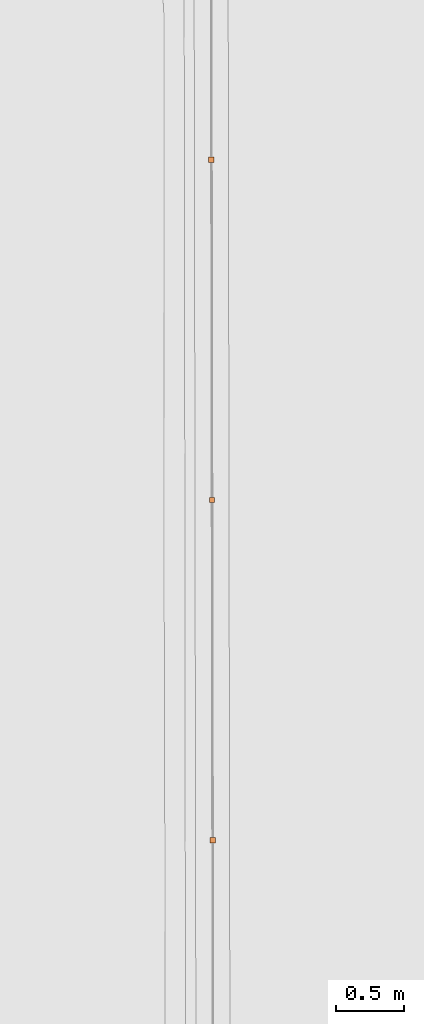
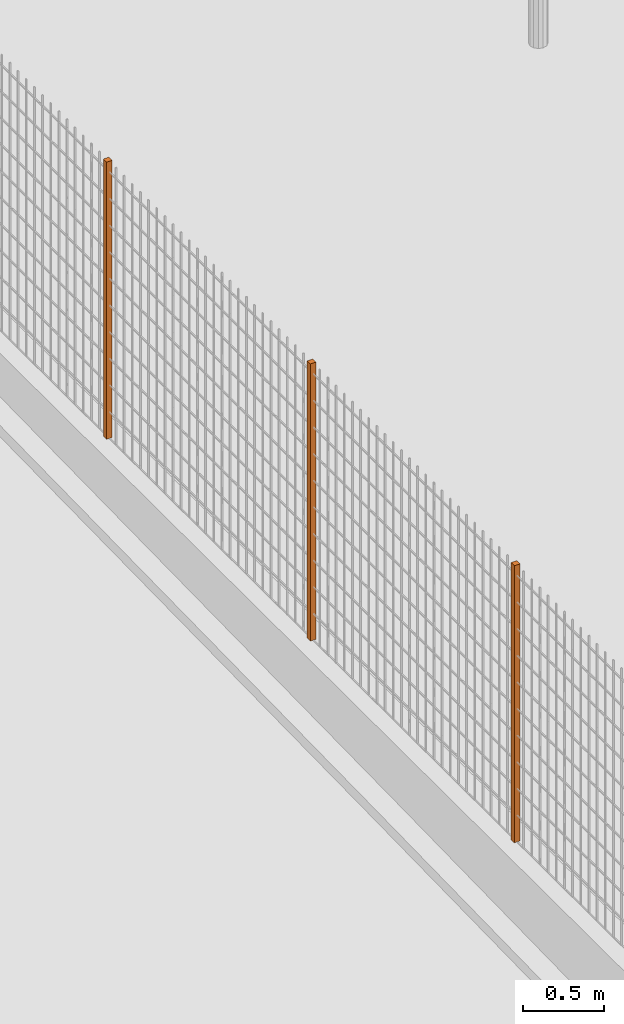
# One storey, part 35 of 1809: 3 proxies, 1 element without a shape of its own.
"""IFC2X3 building model written with IfcOpenShell, lengths in millimetres."""

from ifc_helpers import new_model, entity, si_unit, converted_unit, derived_unit, money_unit, direction, frame, origin_with_axes, place, context, subcontext, project, spatial, faceted_brep, source, transform, mapped, material, type_object, element, aggregate, save


model = new_model("IFC2X3")

# Units and contexts
model_context = context("Model", 3, precision=0.01, world=origin_with_axes(), true_north=direction((0.0, 1.0)))
body_context = subcontext(model_context, "Body", "Model", "MODEL_VIEW")
ifc_project = project(units=[si_unit("LENGTHUNIT", "METRE", prefix="MILLI"), si_unit("AREAUNIT", "SQUARE_METRE"), si_unit("VOLUMEUNIT", "CUBIC_METRE"), converted_unit("PLANEANGLEUNIT", "DEGREE", entity("IfcPlaneAngleMeasure", 0.0174532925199), si_unit("PLANEANGLEUNIT", "RADIAN"), dimensions=[0, 0, 0, 0, 0, 0, 0]), si_unit("SOLIDANGLEUNIT", "STERADIAN"), money_unit("EUR"), converted_unit("TIMEUNIT", "Year", entity("IfcTimeMeasure", 31556926.0), si_unit("TIMEUNIT", "SECOND"), dimensions=[0, 0, 1, 0, 0, 0, 0]), si_unit("MASSUNIT", "GRAM", prefix="KILO"), si_unit("THERMODYNAMICTEMPERATUREUNIT", "DEGREE_CELSIUS"), si_unit("LUMINOUSINTENSITYUNIT", "LUMEN"), si_unit("ENERGYUNIT", "JOULE", prefix="MEGA"), derived_unit("THERMALCONDUCTANCEUNIT", [(si_unit("POWERUNIT", "WATT"), 1), (si_unit("LENGTHUNIT", "METRE"), -1), (si_unit("THERMODYNAMICTEMPERATUREUNIT", "KELVIN"), -1)]), derived_unit("SPECIFICHEATCAPACITYUNIT", [(si_unit("ENERGYUNIT", "JOULE"), 1), (si_unit("MASSUNIT", "GRAM", prefix="KILO"), -1), (si_unit("THERMODYNAMICTEMPERATUREUNIT", "KELVIN"), -1)]), derived_unit("MASSDENSITYUNIT", [(si_unit("MASSUNIT", "GRAM", prefix="KILO"), 1), (si_unit("VOLUMEUNIT", "CUBIC_METRE"), -1)])], contexts=[model_context])

# Site, building, storey
site_placement = place(None, origin_with_axes())
site = spatial("IfcSite", under=ifc_project, at=site_placement, Name="Politse- ja Piirivalveameti ning Päästeameti ühishoone", CompositionType="ELEMENT")
building_placement = place(site_placement, origin_with_axes())
building = spatial("IfcBuilding", under=site, at=building_placement, Name="Politse- ja Piirivalveameti ning Päästeameti ühishoone", CompositionType="ELEMENT")
storey_placement = place(building_placement, origin_with_axes())
storey = spatial("IfcBuildingStorey", under=building, at=storey_placement, Name="Esimene korrus", CompositionType="ELEMENT", Elevation=0.0)

# Proxies
building_element_proxy_type_1 = type_object("IfcBuildingElementProxyType", Name="Railing Type", PredefinedType="NOTDEFINED")
proxy_1_placement = place(storey_placement, frame((59427.6104606, 69881.7149182, 400.0), z_axis=(0.0, 0.0, 1.0), x_axis=(1.0, 0.0, 0.0)))
proxy_1 = element("IfcBuildingElementProxy", 1, at=proxy_1_placement, inside=storey, type_object=building_element_proxy_type_1, Name="PIIRDEAED")
ifc_material = material(Name="ET-03_Raud")
building_element_proxy_type_2 = type_object("IfcBuildingElementProxyType", Name="IfcBuildingElementProxy", PredefinedType="NOTDEFINED")
shared_shape_1 = source(origin_with_axes(), body_context, "Body", "Brep", [
    faceted_brep([(20.0, 20.0, 0.0), (-20.0, 20.0, 0.0), (-20.0, 20.0, 2080.0), (20.0, 20.0, 2080.0), (20.0, -20.0, 0.0), (-20.0, -20.0, 0.0), (-20.0, -20.0, 2080.0), (20.0, -20.0, 2080.0)], [[[0, 1, 2, 3]], [[0, 4, 5, 1]], [[1, 5, 6, 2]], [[3, 2, 6, 7]], [[4, 0, 3, 7]], [[5, 4, 7, 6]]]),
])
proxy_2_placement = place(proxy_1_placement, frame((204.494349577, -8675.59029301, 0.0), z_axis=(0.0, 0.0, 1.0), x_axis=(1.0, 0.0, 0.0)))
proxy_2 = element("IfcBuildingElementProxy", 2, at=proxy_2_placement, type_object=building_element_proxy_type_2, material=ifc_material, Name="SISEPOST - 001", context=body_context, shape_type="MappedRepresentation", body=[
    mapped(shared_shape_1, transform((0.0, 0.0, 0.0), x_axis=(-0.999998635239, -0.00165212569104, 0.0), y_axis=(0.00165212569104, -0.999998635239, 0.0), z_axis=(0.0, 0.0, 1.0))),
])
proxy_3_placement = place(proxy_1_placement, frame((208.624663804, -11175.5868811, 0.0), z_axis=(0.0, 0.0, 1.0), x_axis=(1.0, 0.0, 0.0)))
proxy_3 = element("IfcBuildingElementProxy", 3, at=proxy_3_placement, type_object=building_element_proxy_type_2, material=ifc_material, Name="SISEPOST - 001", context=body_context, shape_type="MappedRepresentation", body=[
    mapped(shared_shape_1, transform((0.0, 0.0, 0.0), x_axis=(-0.999998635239, -0.00165212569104, 0.0), y_axis=(0.00165212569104, -0.999998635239, 0.0), z_axis=(0.0, 0.0, 1.0))),
])
shared_shape_2 = source(origin_with_axes(), body_context, "Body", "Brep", [
    faceted_brep([(20.0, 20.0, 0.0), (-20.0, 20.0, 0.0), (-20.0, 20.0, 2080.0), (20.0, 20.0, 2080.0), (20.0, -20.0, 0.0), (-20.0, -20.0, 0.0), (-20.0, -20.0, 2080.0), (20.0, -20.0, 2080.0)], [[[0, 1, 2, 3]], [[0, 4, 5, 1]], [[1, 5, 6, 2]], [[3, 2, 6, 7]], [[4, 0, 3, 7]], [[5, 4, 7, 6]]]),
])
proxy_4_placement = place(proxy_1_placement, frame((212.754978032, -13675.5834692, 0.0), z_axis=(0.0, 0.0, 1.0), x_axis=(1.0, 0.0, 0.0)))
proxy_4 = element("IfcBuildingElementProxy", 4, at=proxy_4_placement, type_object=building_element_proxy_type_2, material=ifc_material, Name="SISEPOST - 001", context=body_context, shape_type="MappedRepresentation", body=[
    mapped(shared_shape_2, transform((0.0, 0.0, 0.0), x_axis=(-0.999998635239, -0.00165212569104, 0.0), y_axis=(0.00165212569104, -0.999998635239, 0.0), z_axis=(0.0, 0.0, 1.0))),
])
aggregate(proxy_1, [proxy_2, proxy_3, proxy_4])

save(model, "model.ifc")
